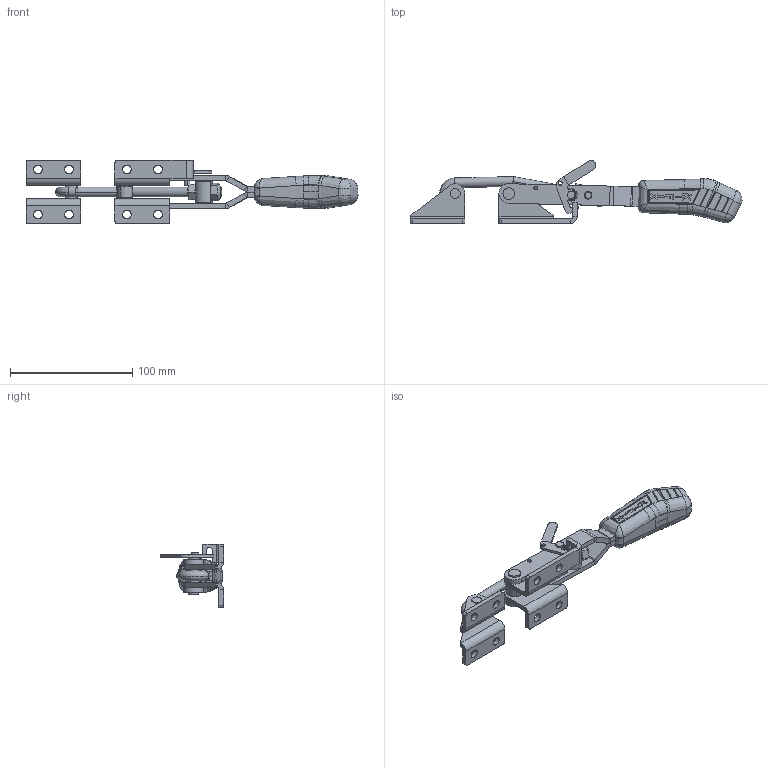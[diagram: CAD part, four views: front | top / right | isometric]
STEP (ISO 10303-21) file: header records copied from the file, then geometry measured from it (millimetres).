
FILE_DESCRIPTION (( 'STEP AP203' ), '1' );
FILE_NAME ('KF-453 DTR.STEP', '2014-08-21T18:23:11', ( 'Ricardo' ), ( '' ), 'SwSTEP 2.0', 'SolidWorks 2013', '' );
FILE_SCHEMA (( 'CONFIG_CONTROL_DESIGN' ));
Length unit declared in the file: millimetre
Products named in the file (16): 06.50029; 02.12049_Direita; 05.20031; 16.20041; 18.10001; 03.20023; 17.50007; 01.10128; 3670000032; 16.20040; KF-453 DTR; 11.50002; 11.50017; 02.12087_Direita; 07.60001; 02.12049_Esquerda
Assembly tree (18 placements, depth 2):
  KF-453 DTR
    02.12087_Direita
    02.12049_Esquerda  x2
    02.12049_Direita
    16.20041
    03.20023
    01.10128  x2
    16.20040
    11.50002
    11.50017
    07.60001
    06.50029
    05.20031
    18.10001
    17.50007  x2
    3670000032
Bounding box: 271.66 x 51.59 x 52 mm (x, y, z)
Volume: 108256.7 mm3; surface area: 54009.7 mm2
Topology: 18 solids, 18 shells, 663 faces, 1642 edges, 1034 vertices
Faces by surface type: plane 265, cylinder 213, bspline 130, cone 48, torus 5, sphere 2
Entity records: 23162 total; most frequent: CARTESIAN_POINT 8561, ORIENTED_EDGE 2946, DIRECTION 2245, EDGE_CURVE 1473, VERTEX_POINT 936, AXIS2_PLACEMENT_3D 824, EDGE_LOOP 659, LINE 597
